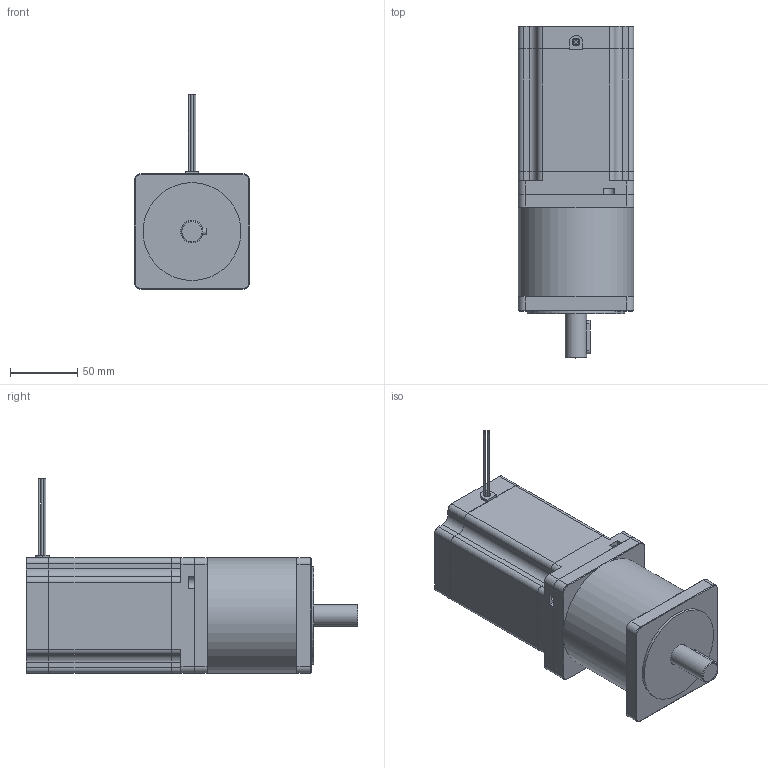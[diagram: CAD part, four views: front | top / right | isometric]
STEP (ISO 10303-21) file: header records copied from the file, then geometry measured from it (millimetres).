
FILE_DESCRIPTION(/* description */ (''),/* implementation_level */ '2;1');
FILE_NAME(/* name */ '86HS126-2408PL16.stp',/* time_stamp */ '2021-03-24T15:59:34+08:00',/* author */ (''),/* organization */ (''),/* preprocessor_version */ 'ST-DEVELOPER v15',/* originating_system */ 'SIEMENS PLM Software NX 10.0',/* authorisation */ '');
FILE_SCHEMA (('CONFIG_CONTROL_DESIGN'));
Length unit declared in the file: millimetre
Products named in the file (6): PL16; 螺钉; 086.001BB; 001f-1; 91.5h定子; 86HS126-2408PL16
Assembly tree (8 placements, depth 2):
  86HS126-2408PL16
    91.5h定子
    001f-1
    086.001BB
    螺钉  x4
    PL16
Bounding box: 86 x 247.5 x 145 mm (x, y, z)
Volume: 1347900.7 mm3; surface area: 137864.3 mm2
Topology: 8 solids, 8 shells, 303 faces, 815 edges, 535 vertices
Faces by surface type: plane 197, cylinder 88, cone 14, bspline 4
Full cylindrical faces by diameter (mm): 1.5 x4, 4 x4, 4.7 x4, 6 x4, 6.5 x4, 16 x1, 17 x3, 52 x1, 73 x2, 86 x1
Entity records: 8482 total; most frequent: CARTESIAN_POINT 1644, DIRECTION 1307, ORIENTED_EDGE 1218, EDGE_CURVE 609, AXIS2_PLACEMENT_3D 465, VERTEX_POINT 412, LINE 377, VECTOR 377
